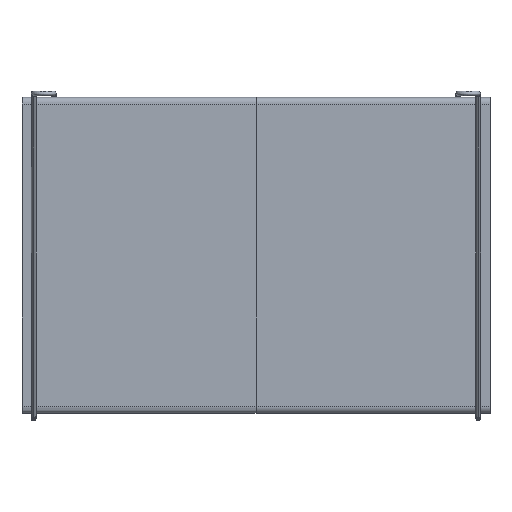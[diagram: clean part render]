
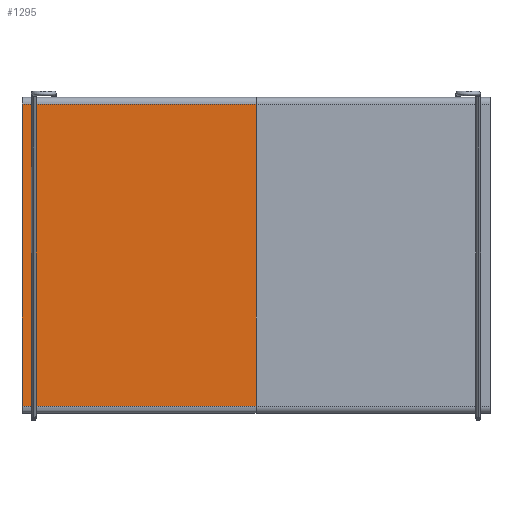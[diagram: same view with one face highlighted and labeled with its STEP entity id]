
A CAD part, top view. The second image highlights one B-rep face of the part: STEP entity #1295.
In plain terms, the highlighted planar face has unit normal (0, 0, 1).
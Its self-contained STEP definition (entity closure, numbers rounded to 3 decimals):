
#626=B_SPLINE_CURVE_WITH_KNOTS('',1,(#23742,#23743),.UNSPECIFIED.,.F.,.F.,
(2,2),(0.,258.),.UNSPECIFIED.);
#627=B_SPLINE_CURVE_WITH_KNOTS('',1,(#23744,#23745),.UNSPECIFIED.,.F.,.F.,
(2,2),(0.,200.),.UNSPECIFIED.);
#628=B_SPLINE_CURVE_WITH_KNOTS('',1,(#23746,#23747),.UNSPECIFIED.,.F.,.F.,
(2,2),(0.,258.),.UNSPECIFIED.);
#629=B_SPLINE_CURVE_WITH_KNOTS('',1,(#23748,#23749),.UNSPECIFIED.,.F.,.F.,
(2,2),(0.,200.),.UNSPECIFIED.);
#1295=ADVANCED_FACE('',(#1787),#7595,.T.);
#1787=FACE_OUTER_BOUND('',#2285,.T.);
#2285=EDGE_LOOP('',(#4685,#4686,#4687,#4688));
#4685=ORIENTED_EDGE('',*,*,#6029,.T.);
#4686=ORIENTED_EDGE('',*,*,#6030,.T.);
#4687=ORIENTED_EDGE('',*,*,#6031,.T.);
#4688=ORIENTED_EDGE('',*,*,#6032,.T.);
#6029=EDGE_CURVE('',#7513,#7514,#626,.T.);
#6030=EDGE_CURVE('',#7514,#7515,#627,.T.);
#6031=EDGE_CURVE('',#7515,#7516,#628,.T.);
#6032=EDGE_CURVE('',#7516,#7513,#629,.T.);
#7513=VERTEX_POINT('',#23734);
#7514=VERTEX_POINT('',#23735);
#7515=VERTEX_POINT('',#23736);
#7516=VERTEX_POINT('',#23737);
#7595=PLANE('',#8313);
#8313=AXIS2_PLACEMENT_3D('',#23729,#8660,$);
#8660=DIRECTION('',(0.,0.,1.));
#23729=CARTESIAN_POINT('',(-2508.841,-19.812,16.));
#23734=CARTESIAN_POINT('',(-2288.829,6.,16.));
#23735=CARTESIAN_POINT('',(-2288.829,264.,16.));
#23736=CARTESIAN_POINT('',(-2488.829,264.,16.));
#23737=CARTESIAN_POINT('',(-2488.829,6.,16.));
#23742=CARTESIAN_POINT('',(-2288.829,6.,16.));
#23743=CARTESIAN_POINT('',(-2288.829,264.,16.));
#23744=CARTESIAN_POINT('',(-2288.829,264.,16.));
#23745=CARTESIAN_POINT('',(-2488.829,264.,16.));
#23746=CARTESIAN_POINT('',(-2488.829,264.,16.));
#23747=CARTESIAN_POINT('',(-2488.829,6.,16.));
#23748=CARTESIAN_POINT('',(-2488.829,6.,16.));
#23749=CARTESIAN_POINT('',(-2288.829,6.,16.));
